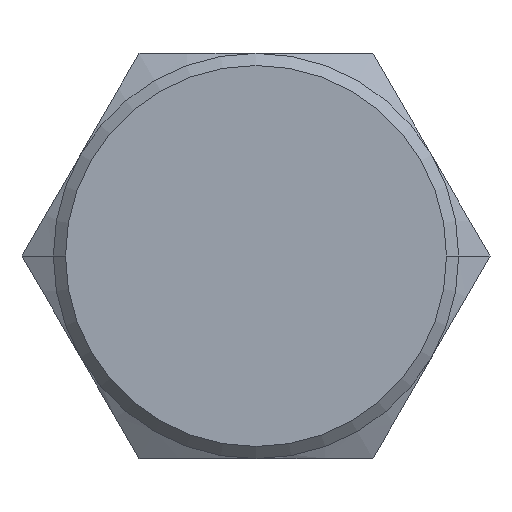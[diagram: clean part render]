
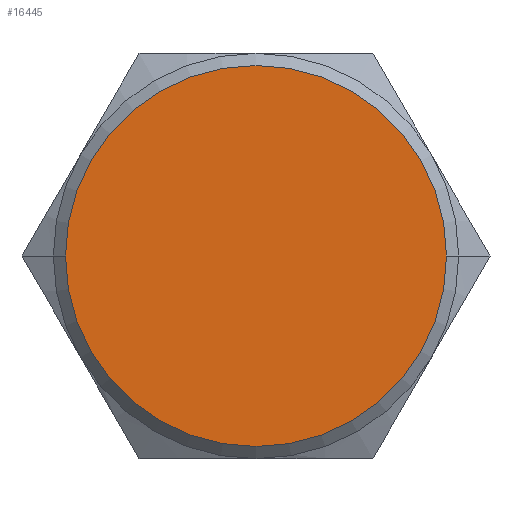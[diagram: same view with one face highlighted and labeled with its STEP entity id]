
A CAD part, left-side view. The second image highlights one B-rep face of the part: STEP entity #16445.
In plain terms, the highlighted planar face has unit normal (-1, 0, 0).
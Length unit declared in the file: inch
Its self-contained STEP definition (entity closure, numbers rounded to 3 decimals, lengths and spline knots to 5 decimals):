
#282=CARTESIAN_POINT('',(-0.2,0.,0.));
#283=DIRECTION('',(-1.,0.,0.));
#284=DIRECTION('',(0.,-1.,0.));
#285=AXIS2_PLACEMENT_3D('',#282,#283,#284);
#290=CARTESIAN_POINT('',(-0.2,0.,0.));
#291=DIRECTION('',(-1.,0.,0.));
#292=DIRECTION('',(0.,1.,0.));
#293=AXIS2_PLACEMENT_3D('',#290,#291,#292);
#16014=CARTESIAN_POINT('',(-0.2,-0.47,0.));
#16015=CARTESIAN_POINT('',(-0.2,0.47,0.));
#16016=VERTEX_POINT('',#16014);
#16017=VERTEX_POINT('',#16015);
#16435=CARTESIAN_POINT('',(-0.2,0.,0.));
#16436=DIRECTION('',(1.,0.,0.));
#16437=DIRECTION('',(0.,-1.,0.));
#16438=AXIS2_PLACEMENT_3D('',#16435,#16436,#16437);
#16439=PLANE('',#16438);
#16440=ORIENTED_EDGE('',*,*,#16425,.F.);
#16442=ORIENTED_EDGE('',*,*,#16441,.F.);
#16443=EDGE_LOOP('',(#16440,#16442));
#16444=FACE_OUTER_BOUND('',#16443,.F.);
#286=CIRCLE('',#285,0.47);
#294=CIRCLE('',#293,0.47);
#16425=EDGE_CURVE('',#16016,#16017,#286,.T.);
#16441=EDGE_CURVE('',#16017,#16016,#294,.T.);
#16445=ADVANCED_FACE('',(#16444),#16439,.F.);
